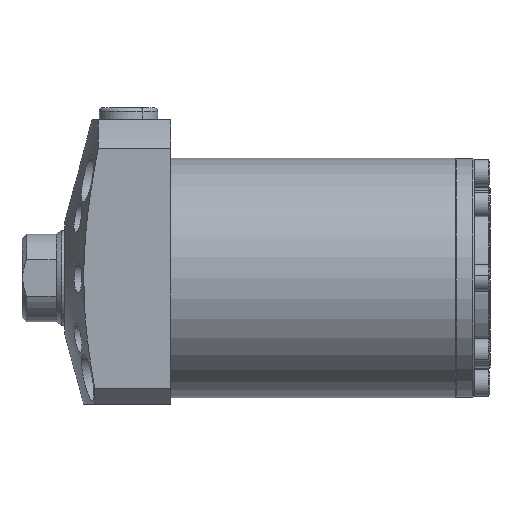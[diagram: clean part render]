
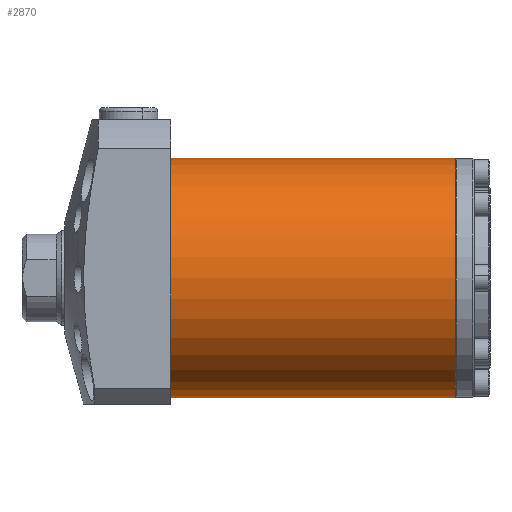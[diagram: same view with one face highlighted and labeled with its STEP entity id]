
A CAD part, left-side view. The second image highlights one B-rep face of the part: STEP entity #2870.
In plain terms, the highlighted cylindrical face has radius 45 mm (diameter 90 mm), a partial arc.
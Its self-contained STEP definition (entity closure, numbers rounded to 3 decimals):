
#1681 = VERTEX_POINT ( 'NONE', #3841 ) ;
#1682 = VERTEX_POINT ( 'NONE', #3842 ) ;
#1686 = VERTEX_POINT ( 'NONE', #3846 ) ;
#1687 = VERTEX_POINT ( 'NONE', #3847 ) ;
#2107 = EDGE_CURVE ( 'NONE', #1682, #1687, #5877, .T. ) ;
#2131 = EDGE_LOOP ( 'NONE', ( #2440, #2441, #2442, #2443 ) ) ;
#2440 = ORIENTED_EDGE ( 'NONE', *, *, #2107, .F. ) ;
#2441 = ORIENTED_EDGE ( 'NONE', *, *, #2895, .T. ) ;
#2442 = ORIENTED_EDGE ( 'NONE', *, *, #2791, .T. ) ;
#2443 = ORIENTED_EDGE ( 'NONE', *, *, #2892, .F. ) ;
#2791 = EDGE_CURVE ( 'NONE', #1681, #1686, #5883, .T. ) ;
#2870 = ADVANCED_FACE ( 'NONE', ( #6717 ), #6719, .T. ) ;
#2892 = EDGE_CURVE ( 'NONE', #1687, #1686, #7123, .T. ) ;
#2895 = EDGE_CURVE ( 'NONE', #1682, #1681, #7128, .T. ) ;
#3841 = CARTESIAN_POINT ( 'NONE',  ( 0., -107., 45. ) ) ;
#3842 = CARTESIAN_POINT ( 'NONE',  ( 0., -107., -45. ) ) ;
#3846 = CARTESIAN_POINT ( 'NONE',  ( 0., 0., 45. ) ) ;
#3847 = CARTESIAN_POINT ( 'NONE',  ( 0., 0., -45. ) ) ;
#4729 = VECTOR ( 'NONE', #5881, 1000. ) ;
#4730 = VECTOR ( 'NONE', #5888, 1000. ) ;
#5875 = CARTESIAN_POINT ( 'NONE',  ( 0., -107., -45. ) ) ;
#5877 = LINE ( 'NONE', #5875, #4729 ) ;
#5881 = DIRECTION ( 'NONE',  ( 0., 1., 0. ) ) ;
#5882 = CARTESIAN_POINT ( 'NONE',  ( 0., -107., 45. ) ) ;
#5883 = LINE ( 'NONE', #5882, #4730 ) ;
#5888 = DIRECTION ( 'NONE',  ( 0., 1., 0. ) ) ;
#6712 = DIRECTION ( 'NONE',  ( 0., 1., 0. ) ) ;
#6717 = FACE_OUTER_BOUND ( 'NONE', #2131, .T. ) ;
#6718 = CARTESIAN_POINT ( 'NONE',  ( 0., -107., 0. ) ) ;
#6719 = CYLINDRICAL_SURFACE ( 'NONE', #7102, 45. ) ;
#6720 = DIRECTION ( 'NONE',  ( 0., 0., 1. ) ) ;
#6821 = CARTESIAN_POINT ( 'NONE',  ( 0., 0., 0. ) ) ;
#6822 = DIRECTION ( 'NONE',  ( 0., 1., 0. ) ) ;
#6823 = DIRECTION ( 'NONE',  ( 0., 0., 1. ) ) ;
#6828 = CARTESIAN_POINT ( 'NONE',  ( 0., -107., 0. ) ) ;
#6829 = DIRECTION ( 'NONE',  ( 0., 1., 0. ) ) ;
#6830 = DIRECTION ( 'NONE',  ( 0., 0., 1. ) ) ;
#7102 = AXIS2_PLACEMENT_3D ( 'NONE', #6718, #6712, #6720 ) ;
#7123 = CIRCLE ( 'NONE', #7126, 45. ) ;
#7126 = AXIS2_PLACEMENT_3D ( 'NONE', #6821, #6822, #6823 ) ;
#7128 = CIRCLE ( 'NONE', #7130, 45. ) ;
#7130 = AXIS2_PLACEMENT_3D ( 'NONE', #6828, #6829, #6830 ) ;
